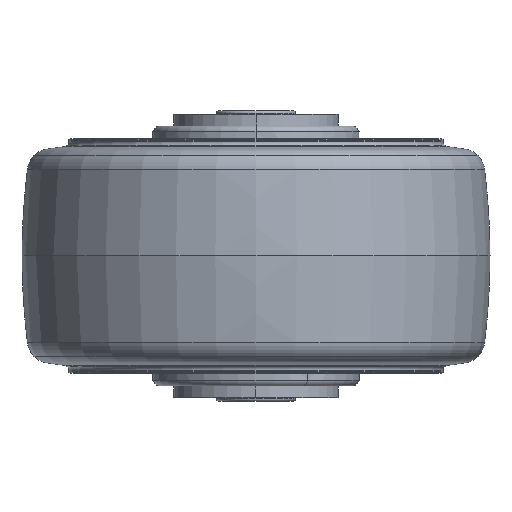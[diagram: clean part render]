
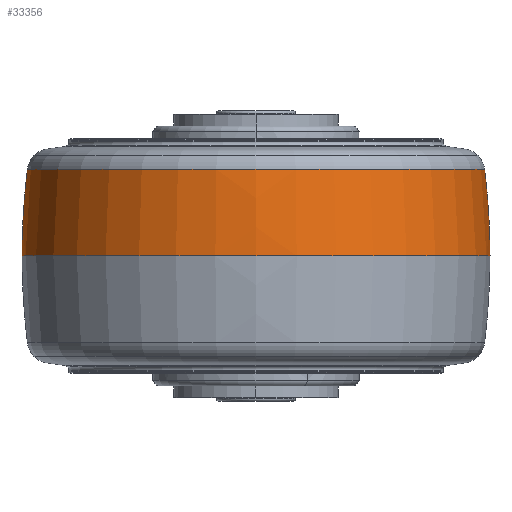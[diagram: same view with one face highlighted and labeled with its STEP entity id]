
A CAD part, front view. The second image highlights one B-rep face of the part: STEP entity #33356.
In plain terms, the highlighted free-form (B-spline) face has degree [3, 3] with [7, 4] control points.
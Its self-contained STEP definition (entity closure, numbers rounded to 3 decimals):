
#32794=CARTESIAN_POINT('',(0.,0.,18.524));
#32795=DIRECTION('',(0.,0.,-1.));
#32796=DIRECTION('',(1.,0.,0.));
#32797=AXIS2_PLACEMENT_3D('',#32794,#32795,#32796);
#32799=CARTESIAN_POINT('',(-100.,0.,0.));
#32800=DIRECTION('',(0.,-1.,0.));
#32801=DIRECTION('',(1.,0.,0.));
#32802=AXIS2_PLACEMENT_3D('',#32799,#32800,#32801);
#32804=CARTESIAN_POINT('',(0.,0.,0.));
#32805=DIRECTION('',(0.,0.,1.));
#32806=DIRECTION('',(-1.,0.,0.));
#32807=AXIS2_PLACEMENT_3D('',#32804,#32805,#32806);
#32809=CARTESIAN_POINT('',(100.,0.,0.));
#32810=DIRECTION('',(0.,1.,0.));
#32811=DIRECTION('',(-1.,0.,0.));
#32812=AXIS2_PLACEMENT_3D('',#32809,#32810,#32811);
#33166=CARTESIAN_POINT('',(48.852,0.,
18.524));
#33168=VERTEX_POINT('',#33166);
#33172=CARTESIAN_POINT('',(-48.852,0.,18.524));
#33173=VERTEX_POINT('',#33172);
#33179=CARTESIAN_POINT('',(50.,0.,0.));
#33181=VERTEX_POINT('',#33179);
#33182=CARTESIAN_POINT('',(-50.,0.,0.));
#33183=VERTEX_POINT('',#33182);
#33319=CARTESIAN_POINT('',(-49.901,3.139,
-0.371));
#33320=CARTESIAN_POINT('',(-49.917,3.14,
6.071));
#33321=CARTESIAN_POINT('',(-49.519,3.115,
12.501));
#33322=CARTESIAN_POINT('',(-48.709,3.065,
18.893));
#33323=CARTESIAN_POINT('',(-51.833,-27.569,
-0.371));
#33324=CARTESIAN_POINT('',(-51.849,-27.578,
6.071));
#33325=CARTESIAN_POINT('',(-51.436,-27.358,
12.501));
#33326=CARTESIAN_POINT('',(-50.595,-26.911,
18.893));
#33327=CARTESIAN_POINT('',(-30.77,-50.,
-0.371));
#33328=CARTESIAN_POINT('',(-30.779,-50.015,
6.071));
#33329=CARTESIAN_POINT('',(-30.534,-49.617,
12.501));
#33330=CARTESIAN_POINT('',(-30.035,-48.805,
18.893));
#33331=CARTESIAN_POINT('',(0.,-50.,
-0.371));
#33332=CARTESIAN_POINT('',(0.,-50.015,6.071));
#33333=CARTESIAN_POINT('',(0.,-49.617,
12.501));
#33334=CARTESIAN_POINT('',(0.,-48.805,
18.893));
#33335=CARTESIAN_POINT('',(30.77,-50.,
-0.371));
#33336=CARTESIAN_POINT('',(30.779,-50.015,
6.071));
#33337=CARTESIAN_POINT('',(30.534,-49.617,
12.501));
#33338=CARTESIAN_POINT('',(30.035,-48.805,
18.893));
#33339=CARTESIAN_POINT('',(51.833,-27.569,
-0.371));
#33340=CARTESIAN_POINT('',(51.849,-27.578,
6.071));
#33341=CARTESIAN_POINT('',(51.436,-27.358,
12.501));
#33342=CARTESIAN_POINT('',(50.595,-26.911,
18.893));
#33343=CARTESIAN_POINT('',(49.901,3.139,
-0.371));
#33344=CARTESIAN_POINT('',(49.917,3.14,6.071));
#33345=CARTESIAN_POINT('',(49.519,3.115,12.501));
#33346=CARTESIAN_POINT('',(48.709,3.065,18.893));
#33347=(BOUNDED_SURFACE()B_SPLINE_SURFACE(3,3,((#33319,#33320,#33321,#33322),(
#33323,#33324,#33325,#33326),(#33327,#33328,#33329,#33330),(#33331,#33332,
#33333,#33334),(#33335,#33336,#33337,#33338),(#33339,#33340,#33341,#33342),(
#33343,#33344,#33345,#33346)),.UNSPECIFIED.,.F.,.F.,.F.)B_SPLINE_SURFACE_WITH_KNOTS((4,3,4),(4,4),(0.,1.,2.),(0.,1.),.UNSPECIFIED.)GEOMETRIC_REPRESENTATION_ITEM()RATIONAL_B_SPLINE_SURFACE(((1.188,1.187,
1.187,1.188),(0.939,0.937,
0.937,0.939),(0.939,0.937,
0.937,0.939),(1.188,1.187,
1.187,1.188),(0.939,0.937,
0.937,0.939),(0.939,0.937,
0.937,0.939),(1.188,1.187,
1.187,1.188)))REPRESENTATION_ITEM('')SURFACE());
#33349=ORIENTED_EDGE('',*,*,#33348,.F.);
#33350=ORIENTED_EDGE('',*,*,#33307,.F.);
#33352=ORIENTED_EDGE('',*,*,#33351,.F.);
#33353=ORIENTED_EDGE('',*,*,#33303,.T.);
#33354=EDGE_LOOP('',(#33349,#33350,#33352,#33353));
#33355=FACE_OUTER_BOUND('',#33354,.F.);
#32798=CIRCLE('',#32797,48.852);
#32803=CIRCLE('',#32802,150.);
#32808=CIRCLE('',#32807,50.);
#32813=CIRCLE('',#32812,150.);
#33303=EDGE_CURVE('',#33183,#33173,#32813,.T.);
#33307=EDGE_CURVE('',#33181,#33168,#32803,.T.);
#33348=EDGE_CURVE('',#33168,#33173,#32798,.T.);
#33351=EDGE_CURVE('',#33183,#33181,#32808,.T.);
#33356=ADVANCED_FACE('',(#33355),#33347,.T.);
